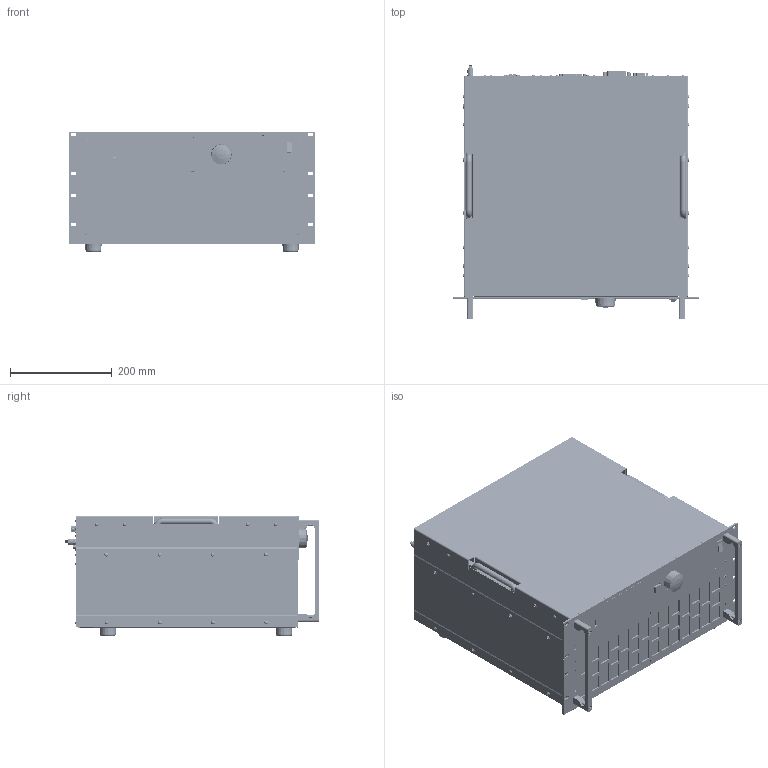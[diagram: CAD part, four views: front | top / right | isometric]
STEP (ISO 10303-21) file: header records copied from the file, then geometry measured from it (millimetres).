
FILE_DESCRIPTION(('STEP AP214'),'1');
FILE_NAME('ACL_M8_19Z_5HE_PH3_7.62-ST41_BRA_3D_02.step','2020-02-20T06:56:27',(' '),(' '),'Spatial InterOp 3D',' ',' ');
FILE_SCHEMA(('AUTOMOTIVE_DESIGN { 1 0 10303 214 1 1 1 1 }'));
Length unit declared in the file: millimetre
Products named in the file (18): 3158_5HE_ug-05_180; *U442; *U443; *U444; *U445; *U446; *U447; *U448; *U479; A$C72AE6952; 2078_ACL_IO Panel_02; 2085_ACL_Rückwand_Steuerteil_Single_Phase_mit_Druck_3D_02; *U480; *U516; *U517; *U518; AutoCreatedBlock_1909
Assembly tree (77 placements, depth 2):
  (unnamed)
    3158_5HE_ug-05_180  x2
    *U442  x2
    *U443
    *U444  x3
    *U445  x2
    *U446  x2
    *U447  x13
    *U448  x16
    *U479  x6
    A$C72AE6952
    2078_ACL_IO Panel_02
    2085_ACL_Rückwand_Steuerteil_Single_Phase_mit_Druck_3D_02
    *U480  x4
    *U516  x8
    *U517  x6
    *U518  x8
    AutoCreatedBlock_1909
Bounding box: 482.6 x 497.15 x 237.13 mm (x, y, z)
Volume: 37408130.8 mm3; surface area: 3126908.9 mm2
Topology: 189 solids, 231 shells, 16224 faces, 40447 edges, 25322 vertices
Faces by surface type: plane 7587, cone 5385, cylinder 2622, torus 207, sphere 205, bspline 190, extrusion 28
Entity records: 531312 total; most frequent: CARTESIAN_POINT 106894, DIRECTION 65947, ORIENTED_EDGE 63860, EDGE_CURVE 32021, VECTOR 22539, LINE 22511, AXIS2_PLACEMENT_3D 21704, VERTEX_POINT 20111
